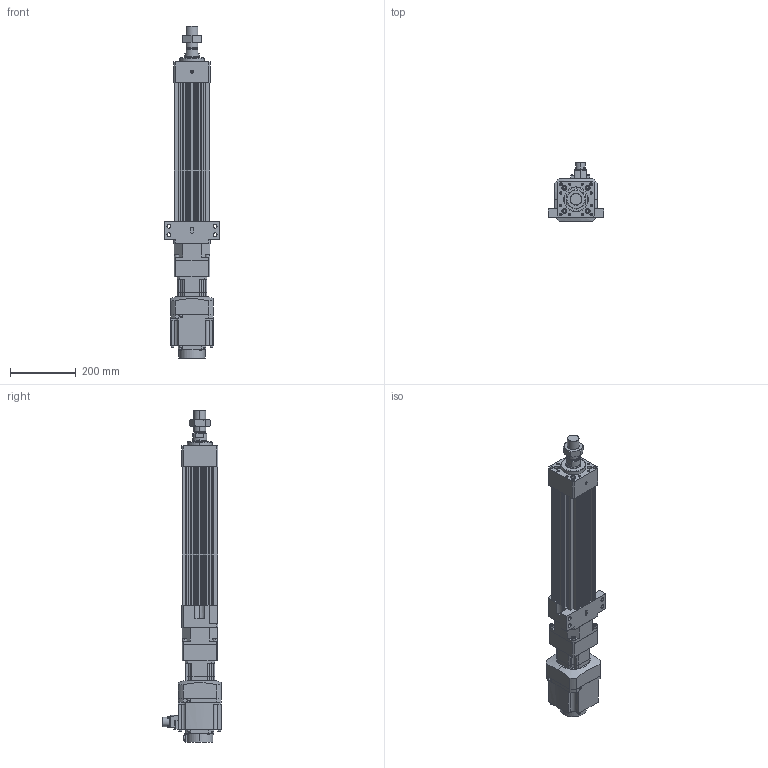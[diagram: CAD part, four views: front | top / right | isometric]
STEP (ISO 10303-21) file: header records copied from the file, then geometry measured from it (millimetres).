
FILE_DESCRIPTION (( 'STEP AP203' ), '1' );
FILE_NAME ('HES110NS(HS)-S250-W010G00-M-FFC.STEP', '2023-01-27T06:24:23', ( 'tms' ), ( '' ), 'SwSTEP 2.0', 'SolidWorks 2013', '' );
FILE_SCHEMA (( 'CONFIG_CONTROL_DESIGN' ));
Length unit declared in the file: millimetre
Products named in the file (8): AB090-003[HG-SR102B]; P0401301004; HES110-S250-G090-FFC; AB0901; HES110 ROD M ST250; M36X1.5P; HES110NS(HS)-S250-W010G00-M-FFC; HG-SR102
Assembly tree (7 placements, depth 3):
  HES110NS(HS)-S250-W010G00-M-FFC
    HES110-S250-G090-FFC
    HES110 ROD M ST250
    M36X1.5P
    AB090-003[HG-SR102B]
      AB0901
      P0401301004
    HG-SR102
Bounding box: 170 x 177.49 x 1008.5 mm (x, y, z)
Volume: 6570169.9 mm3; surface area: 868786.5 mm2
Topology: 4 solids, 15 shells, 1217 faces, 3075 edges, 1984 vertices
Faces by surface type: plane 556, cylinder 547, cone 102, bspline 8, torus 4
Entity records: 38420 total; most frequent: CARTESIAN_POINT 7442, DIRECTION 6626, ORIENTED_EDGE 6054, EDGE_CURVE 3037, AXIS2_PLACEMENT_3D 2439, VERTEX_POINT 1984, LINE 1748, VECTOR 1748
